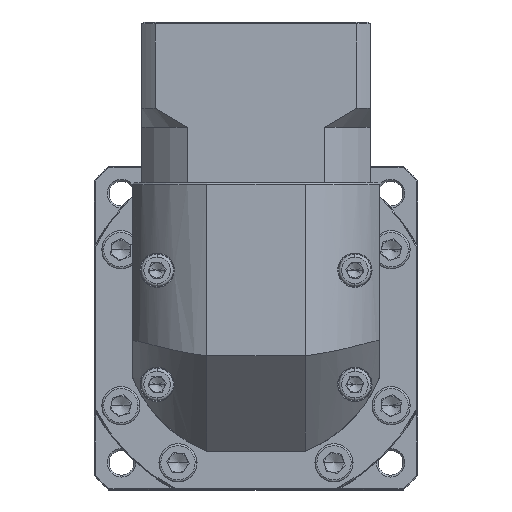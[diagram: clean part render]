
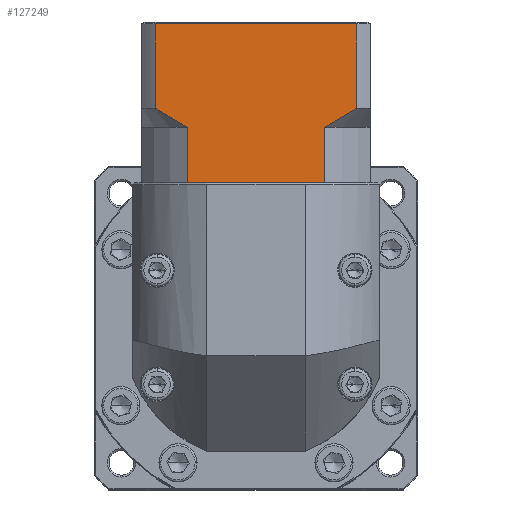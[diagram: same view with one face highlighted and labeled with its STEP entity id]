
A CAD part, top view. The second image highlights one B-rep face of the part: STEP entity #127249.
In plain terms, the highlighted planar face has unit normal (0, 0, 1).
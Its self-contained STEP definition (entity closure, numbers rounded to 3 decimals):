
#5062 = B_SPLINE_CURVE_WITH_KNOTS ( 'NONE', 3,
 ( #65959, #33458, #22597, #97994, #32036, #42496 ),
 .UNSPECIFIED., .F., .F.,
 ( 4, 2, 4 ),
 ( 0.052, 0.057, 0.062 ),
 .UNSPECIFIED. ) ;
#5095 = DIRECTION ( 'NONE',  ( 0., 0., -1. ) ) ;
#5798 = EDGE_CURVE ( 'NONE', #136858, #46979, #5062, .T. ) ;
#8261 = EDGE_CURVE ( 'NONE', #118452, #117719, #92650, .T. ) ;
#9613 = ORIENTED_EDGE ( 'NONE', *, *, #29025, .F. ) ;
#10502 = VECTOR ( 'NONE', #47718, 1000. ) ;
#14409 = VECTOR ( 'NONE', #68794, 1000. ) ;
#14886 = CARTESIAN_POINT ( 'NONE',  ( -77.385, 74.735, 16.273 ) ) ;
#16366 = DIRECTION ( 'NONE',  ( 0., 1., 0. ) ) ;
#16532 = ORIENTED_EDGE ( 'NONE', *, *, #47505, .T. ) ;
#19251 = CARTESIAN_POINT ( 'NONE',  ( -22.29, 93.334, 16.273 ) ) ;
#20529 = CARTESIAN_POINT ( 'NONE',  ( -20.927, 89.235, 16.273 ) ) ;
#20988 = EDGE_CURVE ( 'NONE', #130525, #113298, #22079, .T. ) ;
#21636 = VECTOR ( 'NONE', #105821, 1000. ) ;
#22076 = ORIENTED_EDGE ( 'NONE', *, *, #5798, .T. ) ;
#22079 = LINE ( 'NONE', #43235, #106298 ) ;
#22597 = CARTESIAN_POINT ( 'NONE',  ( -71.104, 92.462, 16.273 ) ) ;
#23521 = CARTESIAN_POINT ( 'NONE',  ( -73.842, 94.235, 16.273 ) ) ;
#24360 = LINE ( 'NONE', #53385, #73275 ) ;
#27592 = CARTESIAN_POINT ( 'NONE',  ( -30.348, 74.735, 16.273 ) ) ;
#29025 = EDGE_CURVE ( 'NONE', #136858, #127115, #104768, .T. ) ;
#31269 = LINE ( 'NONE', #133357, #14409 ) ;
#32036 = CARTESIAN_POINT ( 'NONE',  ( -66.865, 89.983, 16.273 ) ) ;
#33458 = CARTESIAN_POINT ( 'NONE',  ( -72.482, 93.336, 16.273 ) ) ;
#33477 = FACE_OUTER_BOUND ( 'NONE', #127068, .T. ) ;
#34049 = EDGE_CURVE ( 'NONE', #117412, #117719, #60501, .T. ) ;
#37359 = LINE ( 'NONE', #112204, #10502 ) ;
#41874 = EDGE_CURVE ( 'NONE', #113298, #124953, #37359, .T. ) ;
#42252 = CARTESIAN_POINT ( 'NONE',  ( -20.927, 116.435, 16.273 ) ) ;
#42496 = CARTESIAN_POINT ( 'NONE',  ( -65.413, 89.235, 16.273 ) ) ;
#43235 = CARTESIAN_POINT ( 'NONE',  ( -77.385, 74.735, 16.273 ) ) ;
#46979 = VERTEX_POINT ( 'NONE', #139716 ) ;
#47067 = PLANE ( 'NONE',  #134274 ) ;
#47505 = EDGE_CURVE ( 'NONE', #117412, #127115, #97502, .T. ) ;
#47572 = CARTESIAN_POINT ( 'NONE',  ( -73.842, 89.235, 16.273 ) ) ;
#47718 = DIRECTION ( 'NONE',  ( 1., 0., 0. ) ) ;
#49040 = VECTOR ( 'NONE', #102836, 1000. ) ;
#51097 = ORIENTED_EDGE ( 'NONE', *, *, #114545, .F. ) ;
#52444 = DIRECTION ( 'NONE',  ( 0., -1., 0. ) ) ;
#53385 = CARTESIAN_POINT ( 'NONE',  ( -29.357, 89.235, 16.273 ) ) ;
#54069 = DIRECTION ( 'NONE',  ( 1., 0., 0. ) ) ;
#55345 = CARTESIAN_POINT ( 'NONE',  ( -65.413, 74.735, 16.273 ) ) ;
#60501 = LINE ( 'NONE', #20529, #21636 ) ;
#65959 = CARTESIAN_POINT ( 'NONE',  ( -73.842, 94.235, 16.273 ) ) ;
#68794 = DIRECTION ( 'NONE',  ( 0., 1., 0. ) ) ;
#69665 = ORIENTED_EDGE ( 'NONE', *, *, #78399, .T. ) ;
#70911 = ORIENTED_EDGE ( 'NONE', *, *, #34049, .F. ) ;
#72466 = CARTESIAN_POINT ( 'NONE',  ( -27.901, 89.985, 16.273 ) ) ;
#73275 = VECTOR ( 'NONE', #52444, 1000. ) ;
#73830 = VECTOR ( 'NONE', #76431, 1000. ) ;
#74392 = CARTESIAN_POINT ( 'NONE',  ( -73.842, 116.435, 16.273 ) ) ;
#76431 = DIRECTION ( 'NONE',  ( -1., 0., 0. ) ) ;
#78399 = EDGE_CURVE ( 'NONE', #124953, #116647, #87829, .T. ) ;
#83387 = CARTESIAN_POINT ( 'NONE',  ( -29.357, 74.735, 16.273 ) ) ;
#83823 = CARTESIAN_POINT ( 'NONE',  ( -23.67, 92.46, 16.273 ) ) ;
#87829 = LINE ( 'NONE', #14886, #49040 ) ;
#88121 = EDGE_CURVE ( 'NONE', #130525, #46979, #31269, .T. ) ;
#90247 = ORIENTED_EDGE ( 'NONE', *, *, #88121, .F. ) ;
#92650 = B_SPLINE_CURVE_WITH_KNOTS ( 'NONE', 3,
 ( #104513, #72466, #116341, #83823, #19251, #94648 ),
 .UNSPECIFIED., .F., .F.,
 ( 4, 2, 4 ),
 ( 0.1, 0.104, 0.109 ),
 .UNSPECIFIED. ) ;
#94648 = CARTESIAN_POINT ( 'NONE',  ( -20.927, 94.235, 16.273 ) ) ;
#96454 = ORIENTED_EDGE ( 'NONE', *, *, #41874, .T. ) ;
#97502 = LINE ( 'NONE', #118920, #73830 ) ;
#97994 = CARTESIAN_POINT ( 'NONE',  ( -68.296, 90.786, 16.273 ) ) ;
#102836 = DIRECTION ( 'NONE',  ( 1., 0., 0. ) ) ;
#104513 = CARTESIAN_POINT ( 'NONE',  ( -29.357, 89.235, 16.273 ) ) ;
#104768 = LINE ( 'NONE', #47572, #135088 ) ;
#105821 = DIRECTION ( 'NONE',  ( 0., -1., 0. ) ) ;
#106298 = VECTOR ( 'NONE', #54069, 1000. ) ;
#107003 = CARTESIAN_POINT ( 'NONE',  ( -64.422, 74.735, 16.273 ) ) ;
#107712 = CARTESIAN_POINT ( 'NONE',  ( -20.927, 94.235, 16.273 ) ) ;
#112204 = CARTESIAN_POINT ( 'NONE',  ( -77.385, 74.735, 16.273 ) ) ;
#112250 = CARTESIAN_POINT ( 'NONE',  ( -29.357, 89.235, 16.273 ) ) ;
#112933 = CARTESIAN_POINT ( 'NONE',  ( -77.385, 116.935, 16.273 ) ) ;
#113298 = VERTEX_POINT ( 'NONE', #107003 ) ;
#114545 = EDGE_CURVE ( 'NONE', #118452, #116647, #24360, .T. ) ;
#116341 = CARTESIAN_POINT ( 'NONE',  ( -26.475, 90.786, 16.273 ) ) ;
#116647 = VERTEX_POINT ( 'NONE', #83387 ) ;
#117412 = VERTEX_POINT ( 'NONE', #42252 ) ;
#117719 = VERTEX_POINT ( 'NONE', #107712 ) ;
#118452 = VERTEX_POINT ( 'NONE', #112250 ) ;
#118920 = CARTESIAN_POINT ( 'NONE',  ( -77.385, 116.435, 16.273 ) ) ;
#124953 = VERTEX_POINT ( 'NONE', #27592 ) ;
#127068 = EDGE_LOOP ( 'NONE', ( #70911, #16532, #9613, #22076, #90247, #133149, #96454, #69665, #51097, #138345 ) ) ;
#127115 = VERTEX_POINT ( 'NONE', #74392 ) ;
#127249 = ADVANCED_FACE ( 'NONE', ( #33477 ), #47067, .F. ) ;
#130525 = VERTEX_POINT ( 'NONE', #55345 ) ;
#133149 = ORIENTED_EDGE ( 'NONE', *, *, #20988, .T. ) ;
#133357 = CARTESIAN_POINT ( 'NONE',  ( -65.413, 89.235, 16.273 ) ) ;
#133740 = DIRECTION ( 'NONE',  ( 0., 1., 0. ) ) ;
#134274 = AXIS2_PLACEMENT_3D ( 'NONE', #112933, #5095, #16366 ) ;
#135088 = VECTOR ( 'NONE', #133740, 1000. ) ;
#136858 = VERTEX_POINT ( 'NONE', #23521 ) ;
#138345 = ORIENTED_EDGE ( 'NONE', *, *, #8261, .T. ) ;
#139716 = CARTESIAN_POINT ( 'NONE',  ( -65.413, 89.235, 16.273 ) ) ;
